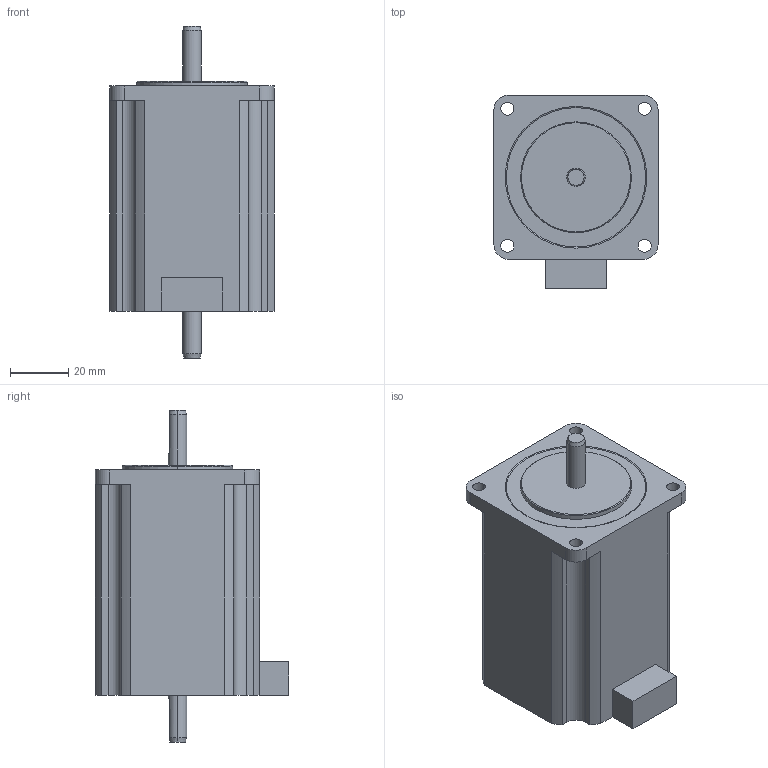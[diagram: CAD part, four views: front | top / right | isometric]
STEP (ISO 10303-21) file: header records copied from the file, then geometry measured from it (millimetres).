
FILE_DESCRIPTION (( 'STEP AP203' ), '1' );
FILE_NAME ('PMSA-U56D5D_3D.STEP', '2016-11-15T04:51:35', ( 'SKJ00869' ), ( '' ), 'SwSTEP 2.0', 'SolidWorks 2014', '' );
FILE_SCHEMA (( 'CONFIG_CONTROL_DESIGN' ));
Length unit declared in the file: millimetre
Products named in the file (1): PMSA-U56D5D_3D
Bounding box: 56.4 x 66.4 x 114.1 mm (x, y, z)
Volume: 227969.3 mm3; surface area: 24036.9 mm2
Topology: 1 solids, 1 shells, 70 faces, 186 edges, 122 vertices
Faces by surface type: cylinder 30, plane 30, cone 10
Entity records: 2303 total; most frequent: DIRECTION 400, CARTESIAN_POINT 399, ORIENTED_EDGE 372, EDGE_CURVE 186, AXIS2_PLACEMENT_3D 147, VERTEX_POINT 122, VECTOR 106, LINE 106
